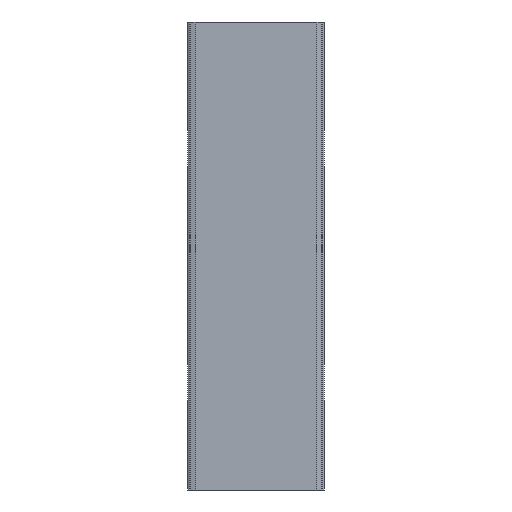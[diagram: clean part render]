
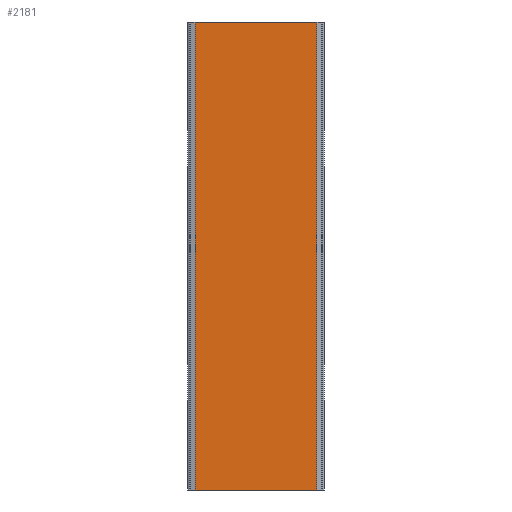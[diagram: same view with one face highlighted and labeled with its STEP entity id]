
A CAD part, front view. The second image highlights one B-rep face of the part: STEP entity #2181.
In plain terms, the highlighted planar face has unit normal (0, -1, 0).
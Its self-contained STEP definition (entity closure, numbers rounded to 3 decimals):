
#167=PLANE('',#2326);
#278=FACE_OUTER_BOUND('',#398,.T.);
#398=EDGE_LOOP('',(#2034,#2035,#2036,#2037));
#645=LINE('',#3621,#899);
#647=LINE('',#3625,#901);
#648=LINE('',#3627,#902);
#649=LINE('',#3628,#903);
#899=VECTOR('',#2805,10.);
#901=VECTOR('',#2809,10.);
#902=VECTOR('',#2810,10.);
#903=VECTOR('',#2811,10.);
#1136=VERTEX_POINT('',#3618);
#1137=VERTEX_POINT('',#3620);
#1138=VERTEX_POINT('',#3624);
#1139=VERTEX_POINT('',#3626);
#1437=EDGE_CURVE('',#1137,#1136,#645,.T.);
#1439=EDGE_CURVE('',#1136,#1138,#647,.T.);
#1440=EDGE_CURVE('',#1139,#1138,#648,.T.);
#1441=EDGE_CURVE('',#1139,#1137,#649,.T.);
#2034=ORIENTED_EDGE('',*,*,#1439,.T.);
#2035=ORIENTED_EDGE('',*,*,#1440,.F.);
#2036=ORIENTED_EDGE('',*,*,#1441,.T.);
#2037=ORIENTED_EDGE('',*,*,#1437,.T.);
#2181=ADVANCED_FACE('',(#278),#167,.T.);
#2326=AXIS2_PLACEMENT_3D('',#3623,#2807,#2808);
#2805=DIRECTION('',(0.,0.,1.));
#2807=DIRECTION('center_axis',(0.,-1.,0.));
#2808=DIRECTION('ref_axis',(0.,0.,-1.));
#2809=DIRECTION('',(-1.,0.,0.));
#2810=DIRECTION('',(0.,0.,1.));
#2811=DIRECTION('',(1.,0.,0.));
#3618=CARTESIAN_POINT('',(104.001,-72.,500.));
#3620=CARTESIAN_POINT('',(104.001,-72.,0.));
#3621=CARTESIAN_POINT('',(104.001,-72.,0.));
#3623=CARTESIAN_POINT('Origin',(104.001,-72.,0.));
#3624=CARTESIAN_POINT('',(-25.999,-72.,500.));
#3625=CARTESIAN_POINT('',(-25.999,-72.,500.));
#3626=CARTESIAN_POINT('',(-25.999,-72.,0.));
#3627=CARTESIAN_POINT('',(-25.999,-72.,0.));
#3628=CARTESIAN_POINT('',(-25.999,-72.,0.));
